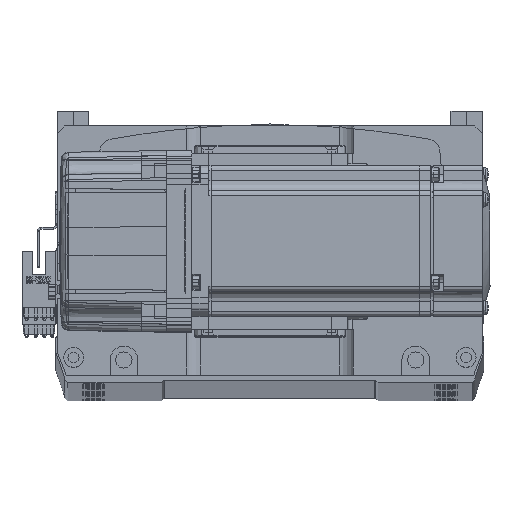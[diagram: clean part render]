
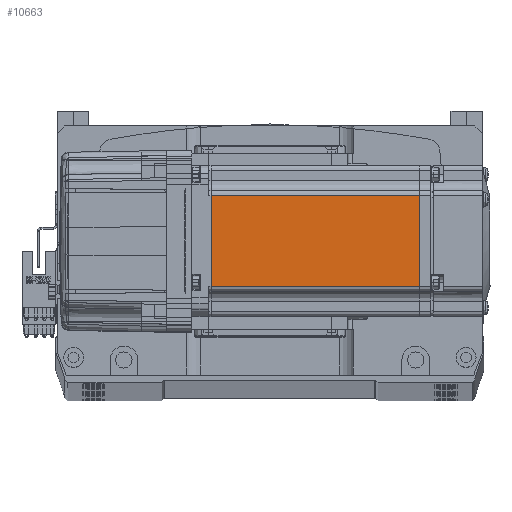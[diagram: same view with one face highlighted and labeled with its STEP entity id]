
A CAD part, top view. The second image highlights one B-rep face of the part: STEP entity #10663.
In plain terms, the highlighted planar face has unit normal (0, 0, 1) as drawn and (0, -1, 0) by its records, which use the part's own axes.
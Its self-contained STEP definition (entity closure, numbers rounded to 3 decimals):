
#1308 = FACE_OUTER_BOUND ( 'NONE', #74459, .T. ) ;
#2997 = EDGE_CURVE ( 'NONE', #59244, #24929, #67645, .T. ) ;
#4866 = DIRECTION ( 'NONE',  ( 0., 0., 1. ) ) ;
#6288 = LINE ( 'NONE', #15899, #66558 ) ;
#8122 = DIRECTION ( 'NONE',  ( 0., 0., -1. ) ) ;
#8974 = ORIENTED_EDGE ( 'NONE', *, *, #73310, .T. ) ;
#10663 = ADVANCED_FACE ( 'NONE', ( #1308 ), #40479, .T. ) ;
#12492 = ORIENTED_EDGE ( 'NONE', *, *, #42893, .T. ) ;
#15061 = LINE ( 'NONE', #16734, #39745 ) ;
#15899 = CARTESIAN_POINT ( 'NONE',  ( -6.5, -30., -18. ) ) ;
#16734 = CARTESIAN_POINT ( 'NONE',  ( -6.5, -30., 18. ) ) ;
#19255 = CARTESIAN_POINT ( 'NONE',  ( -90.45, -30., 18. ) ) ;
#22405 = DIRECTION ( 'NONE',  ( 0., 0., -1. ) ) ;
#23066 = ORIENTED_EDGE ( 'NONE', *, *, #2997, .T. ) ;
#23165 = DIRECTION ( 'NONE',  ( 0., -1., 0. ) ) ;
#24929 = VERTEX_POINT ( 'NONE', #53145 ) ;
#27824 = AXIS2_PLACEMENT_3D ( 'NONE', #68801, #23165, #22405 ) ;
#28011 = EDGE_CURVE ( 'NONE', #24929, #58351, #6288, .T. ) ;
#28988 = DIRECTION ( 'NONE',  ( 1., 0., 0. ) ) ;
#34493 = VERTEX_POINT ( 'NONE', #61962 ) ;
#36608 = VECTOR ( 'NONE', #8122, 1000. ) ;
#39745 = VECTOR ( 'NONE', #62910, 1000. ) ;
#40479 = PLANE ( 'NONE',  #27824 ) ;
#42893 = EDGE_CURVE ( 'NONE', #34493, #59244, #15061, .T. ) ;
#49754 = CARTESIAN_POINT ( 'NONE',  ( -7.75, -30., -18. ) ) ;
#52318 = CARTESIAN_POINT ( 'NONE',  ( -7.75, -30., -25. ) ) ;
#53145 = CARTESIAN_POINT ( 'NONE',  ( -90.45, -30., -18. ) ) ;
#54640 = VECTOR ( 'NONE', #4866, 1000. ) ;
#58351 = VERTEX_POINT ( 'NONE', #49754 ) ;
#59244 = VERTEX_POINT ( 'NONE', #19255 ) ;
#61962 = CARTESIAN_POINT ( 'NONE',  ( -7.75, -30., 18. ) ) ;
#62910 = DIRECTION ( 'NONE',  ( -1., 0., 0. ) ) ;
#66558 = VECTOR ( 'NONE', #28988, 1000. ) ;
#67645 = LINE ( 'NONE', #72662, #36608 ) ;
#68801 = CARTESIAN_POINT ( 'NONE',  ( -6.5, -30., -25. ) ) ;
#71031 = LINE ( 'NONE', #52318, #54640 ) ;
#72384 = ORIENTED_EDGE ( 'NONE', *, *, #28011, .T. ) ;
#72662 = CARTESIAN_POINT ( 'NONE',  ( -90.45, -30., -25. ) ) ;
#73310 = EDGE_CURVE ( 'NONE', #58351, #34493, #71031, .T. ) ;
#74459 = EDGE_LOOP ( 'NONE', ( #8974, #12492, #23066, #72384 ) ) ;
